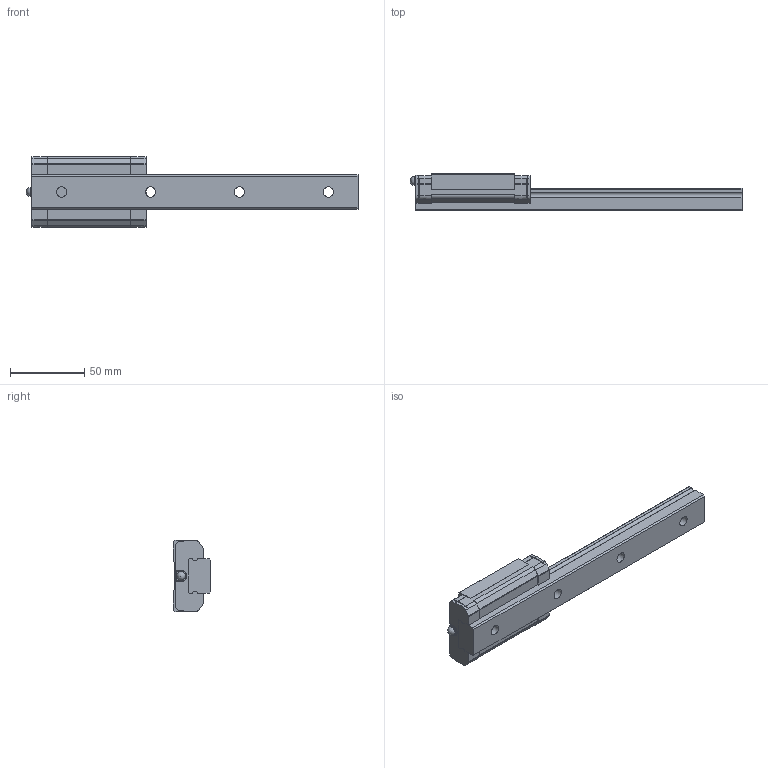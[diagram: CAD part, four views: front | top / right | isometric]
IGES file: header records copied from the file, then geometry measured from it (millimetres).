
Start section: Data from Parasolid IGES Translator 26.0.171, Copyright(c) 2006 Siemens PLM Software. All Rights Reserved.
Global section: file name: SRS25GMSS-220LM_G20_0_PB1021B_0_0_0_0_1.igs; native system: By Siemens PLM Incorporated; preprocessor: XPlus GENERIC/IGES 26.0.171; author: Noname; organization: Noname; date: 20240517.102453; units: millimetre
Bounding box: 224 x 25 x 48 mm (x, y, z)
Surface area: 32688.6 mm2 (no closed solid volume)
Topology: 0 solids, 0 shells, 175 faces, 927 edges, 893 vertices
Faces by surface type: extrusion 119, revolution 56
